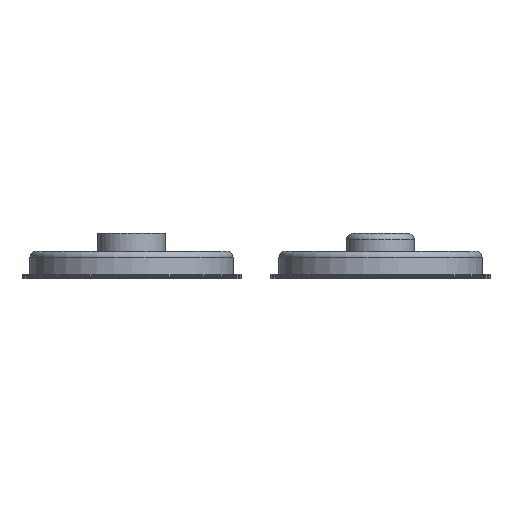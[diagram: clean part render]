
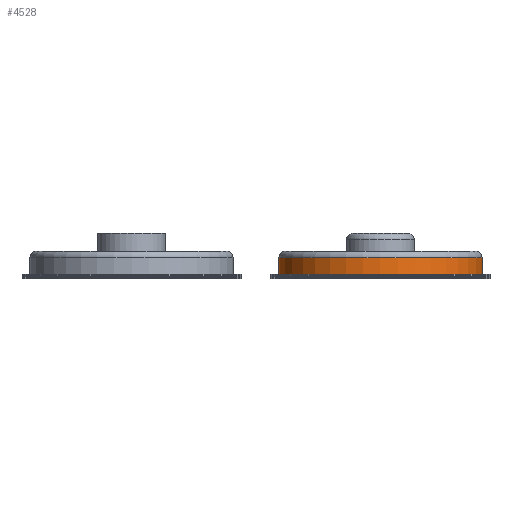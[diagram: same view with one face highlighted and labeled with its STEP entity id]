
A CAD part, top view. The second image highlights one B-rep face of the part: STEP entity #4528.
In plain terms, the highlighted cylindrical face has radius 397.383 mm (diameter 794.766 mm), a full revolution.
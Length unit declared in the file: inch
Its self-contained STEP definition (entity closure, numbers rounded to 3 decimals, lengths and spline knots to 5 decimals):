
#1253=FACE_BOUND('',#1848,.T.);
#1512=FACE_OUTER_BOUND('',#1847,.T.);
#1847=EDGE_LOOP('',(#3676));
#1848=EDGE_LOOP('',(#3677));
#2235=CIRCLE('',#4869,15.645);
#2237=CIRCLE('',#4872,15.645);
#2518=VERTEX_POINT('',#6979);
#2520=VERTEX_POINT('',#6984);
#2982=EDGE_CURVE('',#2518,#2518,#2235,.T.);
#2984=EDGE_CURVE('',#2520,#2520,#2237,.T.);
#3676=ORIENTED_EDGE('',*,*,#2984,.F.);
#3677=ORIENTED_EDGE('',*,*,#2982,.F.);
#4372=CYLINDRICAL_SURFACE('',#4871,15.645);
#4528=ADVANCED_FACE('',(#1512,#1253),#4372,.T.);
#4869=AXIS2_PLACEMENT_3D('',#6980,#5653,#5654);
#4871=AXIS2_PLACEMENT_3D('',#6983,#5657,#5658);
#4872=AXIS2_PLACEMENT_3D('',#6985,#5659,#5660);
#5653=DIRECTION('center_axis',(0.,1.,0.));
#5654=DIRECTION('ref_axis',(-1.,0.,0.));
#5657=DIRECTION('center_axis',(0.,1.,0.));
#5658=DIRECTION('ref_axis',(-1.,0.,0.));
#5659=DIRECTION('center_axis',(0.,-1.,0.));
#5660=DIRECTION('ref_axis',(-1.,0.,0.));
#6979=CARTESIAN_POINT('',(34.815,52.09,259.875));
#6980=CARTESIAN_POINT('Origin',(19.17,52.09,259.875));
#6983=CARTESIAN_POINT('Origin',(19.17,49.54,259.875));
#6984=CARTESIAN_POINT('',(34.815,49.54,259.875));
#6985=CARTESIAN_POINT('Origin',(19.17,49.54,259.875));
